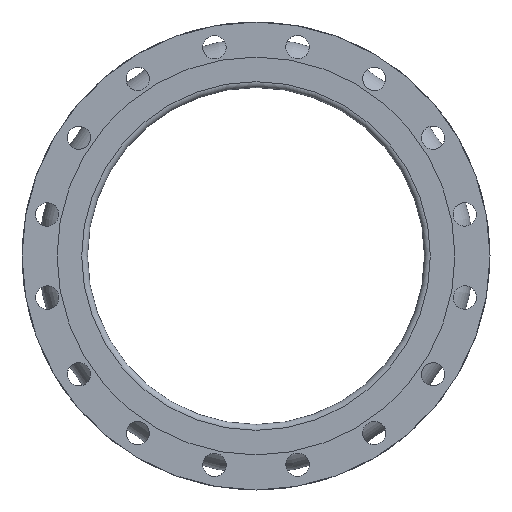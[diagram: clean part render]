
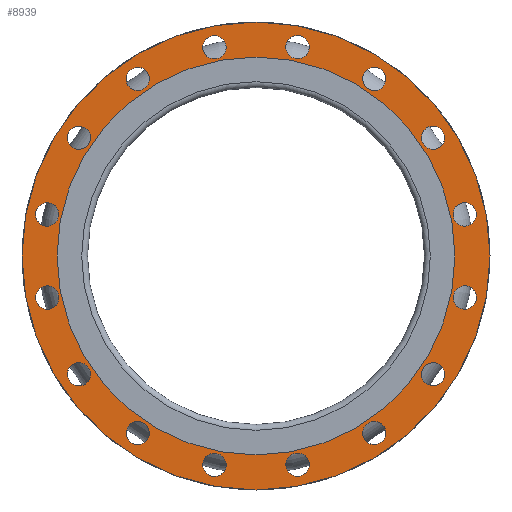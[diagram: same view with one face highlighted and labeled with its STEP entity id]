
A CAD part, left-side view. The second image highlights one B-rep face of the part: STEP entity #8939.
In plain terms, the highlighted planar face has unit normal (-1, 0, 0).
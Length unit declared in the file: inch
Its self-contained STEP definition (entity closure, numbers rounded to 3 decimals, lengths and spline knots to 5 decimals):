
#940=PLANE('',#9521);
#1090=FACE_BOUND('',#1915,.T.);
#1091=FACE_BOUND('',#1916,.T.);
#1092=FACE_BOUND('',#1917,.T.);
#1093=FACE_BOUND('',#1918,.T.);
#1094=FACE_BOUND('',#1919,.T.);
#1095=FACE_BOUND('',#1920,.T.);
#1096=FACE_BOUND('',#1921,.T.);
#1097=FACE_BOUND('',#1922,.T.);
#1098=FACE_BOUND('',#1923,.T.);
#1099=FACE_BOUND('',#1924,.T.);
#1100=FACE_BOUND('',#1925,.T.);
#1101=FACE_BOUND('',#1926,.T.);
#1102=FACE_BOUND('',#1927,.T.);
#1103=FACE_BOUND('',#1928,.T.);
#1104=FACE_BOUND('',#1929,.T.);
#1105=FACE_BOUND('',#1930,.T.);
#1106=FACE_BOUND('',#1931,.T.);
#1374=FACE_OUTER_BOUND('',#1914,.T.);
#1914=EDGE_LOOP('',(#5614));
#1915=EDGE_LOOP('',(#5615));
#1916=EDGE_LOOP('',(#5616));
#1917=EDGE_LOOP('',(#5617));
#1918=EDGE_LOOP('',(#5618));
#1919=EDGE_LOOP('',(#5619));
#1920=EDGE_LOOP('',(#5620));
#1921=EDGE_LOOP('',(#5621));
#1922=EDGE_LOOP('',(#5622));
#1923=EDGE_LOOP('',(#5623));
#1924=EDGE_LOOP('',(#5624));
#1925=EDGE_LOOP('',(#5625));
#1926=EDGE_LOOP('',(#5626));
#1927=EDGE_LOOP('',(#5627));
#1928=EDGE_LOOP('',(#5628));
#1929=EDGE_LOOP('',(#5629));
#1930=EDGE_LOOP('',(#5630));
#1931=EDGE_LOOP('',(#5631));
#2643=CIRCLE('',#9427,0.625);
#2645=CIRCLE('',#9430,0.625);
#2647=CIRCLE('',#9433,0.625);
#2649=CIRCLE('',#9436,0.625);
#2651=CIRCLE('',#9439,0.625);
#2653=CIRCLE('',#9442,0.625);
#2655=CIRCLE('',#9445,0.625);
#2657=CIRCLE('',#9448,0.625);
#2659=CIRCLE('',#9451,0.625);
#2661=CIRCLE('',#9454,0.625);
#2663=CIRCLE('',#9457,0.625);
#2665=CIRCLE('',#9460,0.625);
#2667=CIRCLE('',#9463,0.625);
#2669=CIRCLE('',#9466,0.625);
#2671=CIRCLE('',#9469,0.625);
#2673=CIRCLE('',#9472,0.625);
#2706=CIRCLE('',#9522,12.5);
#2707=CIRCLE('',#9523,10.625);
#3431=VERTEX_POINT('',#13767);
#3433=VERTEX_POINT('',#13772);
#3435=VERTEX_POINT('',#13777);
#3437=VERTEX_POINT('',#13782);
#3439=VERTEX_POINT('',#13787);
#3441=VERTEX_POINT('',#13792);
#3443=VERTEX_POINT('',#13797);
#3445=VERTEX_POINT('',#13802);
#3447=VERTEX_POINT('',#13807);
#3449=VERTEX_POINT('',#13812);
#3451=VERTEX_POINT('',#13817);
#3453=VERTEX_POINT('',#13822);
#3455=VERTEX_POINT('',#13827);
#3457=VERTEX_POINT('',#13832);
#3459=VERTEX_POINT('',#13837);
#3461=VERTEX_POINT('',#13842);
#3494=VERTEX_POINT('',#13925);
#3495=VERTEX_POINT('',#13927);
#4315=EDGE_CURVE('',#3431,#3431,#2643,.T.);
#4317=EDGE_CURVE('',#3433,#3433,#2645,.T.);
#4319=EDGE_CURVE('',#3435,#3435,#2647,.T.);
#4321=EDGE_CURVE('',#3437,#3437,#2649,.T.);
#4323=EDGE_CURVE('',#3439,#3439,#2651,.T.);
#4325=EDGE_CURVE('',#3441,#3441,#2653,.T.);
#4327=EDGE_CURVE('',#3443,#3443,#2655,.T.);
#4329=EDGE_CURVE('',#3445,#3445,#2657,.T.);
#4331=EDGE_CURVE('',#3447,#3447,#2659,.T.);
#4333=EDGE_CURVE('',#3449,#3449,#2661,.T.);
#4335=EDGE_CURVE('',#3451,#3451,#2663,.T.);
#4337=EDGE_CURVE('',#3453,#3453,#2665,.T.);
#4339=EDGE_CURVE('',#3455,#3455,#2667,.T.);
#4341=EDGE_CURVE('',#3457,#3457,#2669,.T.);
#4343=EDGE_CURVE('',#3459,#3459,#2671,.T.);
#4345=EDGE_CURVE('',#3461,#3461,#2673,.T.);
#4378=EDGE_CURVE('',#3494,#3494,#2706,.T.);
#4379=EDGE_CURVE('',#3495,#3495,#2707,.T.);
#5614=ORIENTED_EDGE('',*,*,#4378,.F.);
#5615=ORIENTED_EDGE('',*,*,#4315,.T.);
#5616=ORIENTED_EDGE('',*,*,#4317,.T.);
#5617=ORIENTED_EDGE('',*,*,#4319,.T.);
#5618=ORIENTED_EDGE('',*,*,#4321,.T.);
#5619=ORIENTED_EDGE('',*,*,#4323,.T.);
#5620=ORIENTED_EDGE('',*,*,#4325,.T.);
#5621=ORIENTED_EDGE('',*,*,#4327,.T.);
#5622=ORIENTED_EDGE('',*,*,#4329,.T.);
#5623=ORIENTED_EDGE('',*,*,#4331,.T.);
#5624=ORIENTED_EDGE('',*,*,#4333,.T.);
#5625=ORIENTED_EDGE('',*,*,#4335,.T.);
#5626=ORIENTED_EDGE('',*,*,#4337,.T.);
#5627=ORIENTED_EDGE('',*,*,#4339,.T.);
#5628=ORIENTED_EDGE('',*,*,#4341,.T.);
#5629=ORIENTED_EDGE('',*,*,#4343,.T.);
#5630=ORIENTED_EDGE('',*,*,#4345,.T.);
#5631=ORIENTED_EDGE('',*,*,#4379,.T.);
#8939=ADVANCED_FACE('',(#1374,#1090,#1091,#1092,#1093,#1094,#1095,#1096,
#1097,#1098,#1099,#1100,#1101,#1102,#1103,#1104,#1105,#1106),#940,.T.);
#9427=AXIS2_PLACEMENT_3D('',#13768,#10727,#10728);
#9430=AXIS2_PLACEMENT_3D('',#13773,#10733,#10734);
#9433=AXIS2_PLACEMENT_3D('',#13778,#10739,#10740);
#9436=AXIS2_PLACEMENT_3D('',#13783,#10745,#10746);
#9439=AXIS2_PLACEMENT_3D('',#13788,#10751,#10752);
#9442=AXIS2_PLACEMENT_3D('',#13793,#10757,#10758);
#9445=AXIS2_PLACEMENT_3D('',#13798,#10763,#10764);
#9448=AXIS2_PLACEMENT_3D('',#13803,#10769,#10770);
#9451=AXIS2_PLACEMENT_3D('',#13808,#10775,#10776);
#9454=AXIS2_PLACEMENT_3D('',#13813,#10781,#10782);
#9457=AXIS2_PLACEMENT_3D('',#13818,#10787,#10788);
#9460=AXIS2_PLACEMENT_3D('',#13823,#10793,#10794);
#9463=AXIS2_PLACEMENT_3D('',#13828,#10799,#10800);
#9466=AXIS2_PLACEMENT_3D('',#13833,#10805,#10806);
#9469=AXIS2_PLACEMENT_3D('',#13838,#10811,#10812);
#9472=AXIS2_PLACEMENT_3D('',#13843,#10817,#10818);
#9521=AXIS2_PLACEMENT_3D('',#13924,#10915,#10916);
#9522=AXIS2_PLACEMENT_3D('',#13926,#10917,#10918);
#9523=AXIS2_PLACEMENT_3D('',#13928,#10919,#10920);
#10727=DIRECTION('center_axis',(1.,0.,0.));
#10728=DIRECTION('ref_axis',(0.,-0.383,-0.924));
#10733=DIRECTION('center_axis',(1.,0.,0.));
#10734=DIRECTION('ref_axis',(0.,-0.707,-0.707));
#10739=DIRECTION('center_axis',(1.,0.,0.));
#10740=DIRECTION('ref_axis',(0.,-0.924,-0.383));
#10745=DIRECTION('center_axis',(1.,0.,0.));
#10746=DIRECTION('ref_axis',(0.,-1.,0.));
#10751=DIRECTION('center_axis',(1.,0.,0.));
#10752=DIRECTION('ref_axis',(0.,-0.924,0.383));
#10757=DIRECTION('center_axis',(1.,0.,0.));
#10758=DIRECTION('ref_axis',(0.,-0.707,0.707));
#10763=DIRECTION('center_axis',(1.,0.,0.));
#10764=DIRECTION('ref_axis',(0.,-0.383,0.924));
#10769=DIRECTION('center_axis',(1.,0.,0.));
#10770=DIRECTION('ref_axis',(0.,0.,1.));
#10775=DIRECTION('center_axis',(1.,0.,0.));
#10776=DIRECTION('ref_axis',(0.,0.383,0.924));
#10781=DIRECTION('center_axis',(1.,0.,0.));
#10782=DIRECTION('ref_axis',(0.,0.707,0.707));
#10787=DIRECTION('center_axis',(1.,0.,0.));
#10788=DIRECTION('ref_axis',(0.,0.924,0.383));
#10793=DIRECTION('center_axis',(1.,0.,0.));
#10794=DIRECTION('ref_axis',(0.,1.,0.));
#10799=DIRECTION('center_axis',(1.,0.,0.));
#10800=DIRECTION('ref_axis',(0.,0.924,-0.383));
#10805=DIRECTION('center_axis',(1.,0.,0.));
#10806=DIRECTION('ref_axis',(0.,0.707,-0.707));
#10811=DIRECTION('center_axis',(1.,0.,0.));
#10812=DIRECTION('ref_axis',(0.,0.383,-0.924));
#10817=DIRECTION('center_axis',(1.,0.,0.));
#10818=DIRECTION('ref_axis',(0.,0.,-1.));
#10915=DIRECTION('center_axis',(-1.,0.,0.));
#10916=DIRECTION('ref_axis',(0.,0.,1.));
#10917=DIRECTION('center_axis',(1.,0.,0.));
#10918=DIRECTION('ref_axis',(0.,0.,-1.));
#10919=DIRECTION('center_axis',(1.,0.,0.));
#10920=DIRECTION('ref_axis',(0.,0.,-1.));
#13767=CARTESIAN_POINT('',(-6.,9.69714,-5.74219));
#13768=CARTESIAN_POINT('Origin',(-6.,9.45797,-6.31961));
#13772=CARTESIAN_POINT('',(-6.,6.76155,-9.01603));
#13773=CARTESIAN_POINT('Origin',(-6.,6.31961,-9.45797));
#13777=CARTESIAN_POINT('',(-6.,2.79658,-10.91726));
#13778=CARTESIAN_POINT('Origin',(-6.,2.21915,-11.15643));
#13782=CARTESIAN_POINT('',(-6.,-1.59415,-11.15643));
#13783=CARTESIAN_POINT('Origin',(-6.,-2.21915,-11.15643));
#13787=CARTESIAN_POINT('',(-6.,-5.74219,-9.69714));
#13788=CARTESIAN_POINT('Origin',(-6.,-6.31961,-9.45797));
#13792=CARTESIAN_POINT('',(-6.,-9.01603,-6.76155));
#13793=CARTESIAN_POINT('Origin',(-6.,-9.45797,-6.31961));
#13797=CARTESIAN_POINT('',(-6.,-10.91726,-2.79658));
#13798=CARTESIAN_POINT('Origin',(-6.,-11.15643,-2.21915));
#13802=CARTESIAN_POINT('',(-6.,-11.15643,1.59415));
#13803=CARTESIAN_POINT('Origin',(-6.,-11.15643,2.21915));
#13807=CARTESIAN_POINT('',(-6.,-9.69714,5.74219));
#13808=CARTESIAN_POINT('Origin',(-6.,-9.45797,6.31961));
#13812=CARTESIAN_POINT('',(-6.,-6.76155,9.01603));
#13813=CARTESIAN_POINT('Origin',(-6.,-6.31961,9.45797));
#13817=CARTESIAN_POINT('',(-6.,-2.79658,10.91726));
#13818=CARTESIAN_POINT('Origin',(-6.,-2.21915,11.15643));
#13822=CARTESIAN_POINT('',(-6.,1.59415,11.15643));
#13823=CARTESIAN_POINT('Origin',(-6.,2.21915,11.15643));
#13827=CARTESIAN_POINT('',(-6.,5.74219,9.69714));
#13828=CARTESIAN_POINT('Origin',(-6.,6.31961,9.45797));
#13832=CARTESIAN_POINT('',(-6.,9.01603,6.76155));
#13833=CARTESIAN_POINT('Origin',(-6.,9.45797,6.31961));
#13837=CARTESIAN_POINT('',(-6.,10.91726,2.79658));
#13838=CARTESIAN_POINT('Origin',(-6.,11.15643,2.21915));
#13842=CARTESIAN_POINT('',(-6.,11.15643,-1.59415));
#13843=CARTESIAN_POINT('Origin',(-6.,11.15643,-2.21915));
#13924=CARTESIAN_POINT('Origin',(-6.,12.5,0.));
#13925=CARTESIAN_POINT('',(-6.,12.5,0.));
#13926=CARTESIAN_POINT('Origin',(-6.,0.,0.));
#13927=CARTESIAN_POINT('',(-6.,10.625,0.));
#13928=CARTESIAN_POINT('Origin',(-6.,0.,0.));
